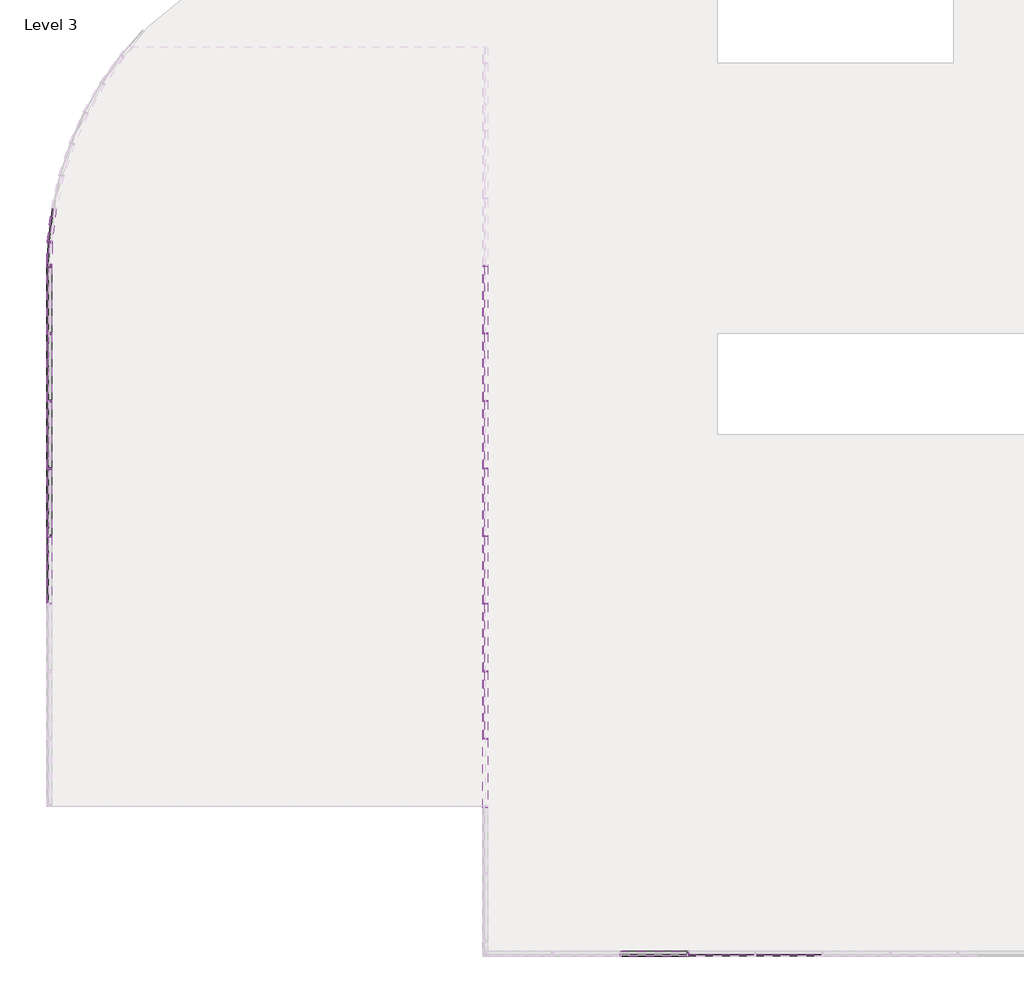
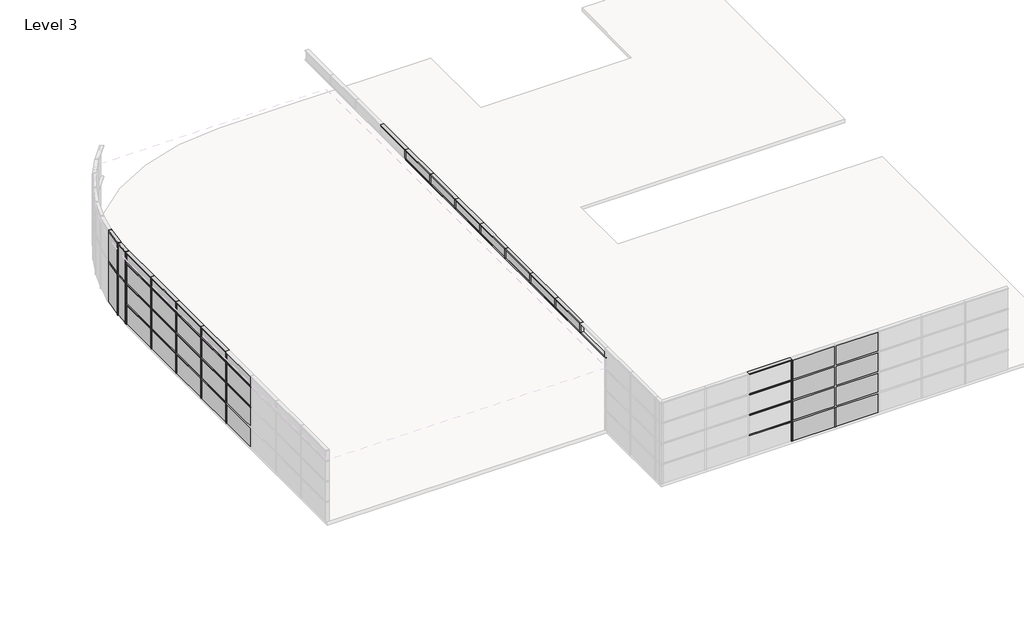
# One storey, part 2 of 6: 79 members, 39 plates.
"""IFC4 building model written with IfcOpenShell, lengths in millimetres."""

from ifc_helpers import new_model, si_unit, origin, place, context, project, spatial, transform, mapped, element, save
from components import rectangular_mullion_50_x_150mm_a053b0ca, rectangular_mullion_50_x_150mm_aa47fe12, rectangular_mullion_50_x_150mm_3a148f0f, rectangular_mullion_50_x_150mm_12a430f9, rectangular_mullion_50_x_150mm_7b680336, rectangular_mullion_50_x_150mm_b9c4b528, rectangular_mullion_50_x_150mm_92e7435e, rectangular_mullion_50_x_150mm_11df4cda, rectangular_mullion_50_x_150mm_a54f4cf2, rectangular_mullion_50_x_150mm_25f32059, rectangular_mullion_50_x_150mm_33fa7e5f, rectangular_mullion_50_x_150mm_4ec38d8a, rectangular_mullion_50_x_150mm_5679a0dd, rectangular_mullion_50_x_150mm_3195318e, system_panel_glazed_751a585c, system_panel_glazed_08de6f5f, system_panel_glazed_10bebfc7, system_panel_glazed_ff23e140, system_panel_glazed_7898dc84, system_panel_glazed_b9387e44, system_panel_glazed_24c71900, system_panel_glazed_efad819a, system_panel_glazed_6d811ace

model = new_model("IFC4")

# Units and contexts
model_context = context("Model", 3, world=origin())
ifc_project = project(units=[si_unit("LENGTHUNIT", "METRE", prefix="MILLI")], contexts=[model_context])

# Site, building, storey
site = spatial("IfcSite", under=ifc_project)
building = spatial("IfcBuilding", under=site)
storey = spatial("IfcBuildingStorey", under=building, Name="Level 3", Elevation=8000.0)

# Members
placement = place(None, origin())
rectangular_mullion_50_x_150mm_shape = rectangular_mullion_50_x_150mm_a053b0ca(model_context)
element("IfcMember", 1, ObjectType="Rectangular Mullion : 50 x 150mm", at=placement, inside=storey, context=model_context, shape_type="MappedRepresentation", body=[
    mapped(rectangular_mullion_50_x_150mm_shape, transform((412.826594, -21988.7417365, 8025.0), x_axis=(1.0, 0.0, 0.0), y_axis=(0.0, -1.0, 0.0), z_axis=(0.0, 0.0, -1.0))),
])
element("IfcMember", 2, ObjectType="Rectangular Mullion : 50 x 150mm", at=placement, inside=storey, context=model_context, shape_type="MappedRepresentation", body=[
    mapped(rectangular_mullion_50_x_150mm_shape, transform((412.826594, -21988.7417365, 9025.0), x_axis=(1.0, 0.0, 0.0), y_axis=(0.0, -1.0, 0.0), z_axis=(0.0, 0.0, -0.9999999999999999))),
])
element("IfcMember", 3, ObjectType="Rectangular Mullion : 50 x 150mm", at=placement, inside=storey, context=model_context, shape_type="MappedRepresentation", body=[
    mapped(rectangular_mullion_50_x_150mm_shape, transform((412.826594, -21988.7417365, 10025.0), x_axis=(1.0, 0.0, 0.0), y_axis=(0.0, -1.0, 0.0), z_axis=(0.0, 0.0, -1.0))),
])
element("IfcMember", 4, ObjectType="Rectangular Mullion : 50 x 150mm", at=placement, inside=storey, context=model_context, shape_type="MappedRepresentation", body=[
    mapped(rectangular_mullion_50_x_150mm_shape, transform((412.826594, -21988.7417365, 11025.0), x_axis=(1.0, 0.0, 0.0), y_axis=(0.0, -1.0, 0.0), z_axis=(0.0, 0.0, -1.0))),
])
element("IfcMember", 5, ObjectType="Rectangular Mullion : 50 x 150mm", at=placement, inside=storey, context=model_context, shape_type="MappedRepresentation", body=[
    mapped(rectangular_mullion_50_x_150mm_shape, transform((2412.826594, -21988.7417365, 8025.0), x_axis=(1.0, 0.0, 0.0), y_axis=(0.0, -1.0, 0.0), z_axis=(0.0, 0.0, -1.0))),
])
element("IfcMember", 6, ObjectType="Rectangular Mullion : 50 x 150mm", at=placement, inside=storey, context=model_context, shape_type="MappedRepresentation", body=[
    mapped(rectangular_mullion_50_x_150mm_shape, transform((-18496.7339025, -7624.0160434, 8025.0), x_axis=(0.0, -1.0, 0.0), y_axis=(-1.0, 0.0, 0.0), z_axis=(0.0, 0.0, -1.0))),
])
element("IfcMember", 7, ObjectType="Rectangular Mullion : 50 x 150mm", at=placement, inside=storey, context=model_context, shape_type="MappedRepresentation", body=[
    mapped(rectangular_mullion_50_x_150mm_shape, transform((-18496.7339025, -7624.0160434, 9025.0), x_axis=(0.0, -1.0, 0.0), y_axis=(-1.0, 0.0, 0.0), z_axis=(0.0, 0.0, -0.9999999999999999))),
])
element("IfcMember", 8, ObjectType="Rectangular Mullion : 50 x 150mm", at=placement, inside=storey, context=model_context, shape_type="MappedRepresentation", body=[
    mapped(rectangular_mullion_50_x_150mm_shape, transform((-18496.7339025, -7624.0160434, 10025.0), x_axis=(0.0, -1.0, 0.0), y_axis=(-1.0, 0.0, 0.0), z_axis=(0.0, 0.0, -1.0))),
])
element("IfcMember", 9, ObjectType="Rectangular Mullion : 50 x 150mm", at=placement, inside=storey, context=model_context, shape_type="MappedRepresentation", body=[
    mapped(rectangular_mullion_50_x_150mm_shape, transform((-18496.7339025, -5624.0160434, 8025.0), x_axis=(0.0, -1.0, 0.0), y_axis=(-1.0, 0.0, 0.0), z_axis=(0.0, 0.0, -1.0))),
])
element("IfcMember", 10, ObjectType="Rectangular Mullion : 50 x 150mm", at=placement, inside=storey, context=model_context, shape_type="MappedRepresentation", body=[
    mapped(rectangular_mullion_50_x_150mm_shape, transform((-18496.7339025, -5624.0160434, 9025.0), x_axis=(0.0, -1.0, 0.0), y_axis=(-1.0, 0.0, 0.0), z_axis=(0.0, 0.0, -0.9999999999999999))),
])
element("IfcMember", 11, ObjectType="Rectangular Mullion : 50 x 150mm", at=placement, inside=storey, context=model_context, shape_type="MappedRepresentation", body=[
    mapped(rectangular_mullion_50_x_150mm_shape, transform((-18496.7339025, -5624.0160434, 10025.0), x_axis=(0.0, -1.0, 0.0), y_axis=(-1.0, 0.0, 0.0), z_axis=(0.0, 0.0, -1.0))),
])
element("IfcMember", 12, ObjectType="Rectangular Mullion : 50 x 150mm", at=placement, inside=storey, context=model_context, shape_type="MappedRepresentation", body=[
    mapped(rectangular_mullion_50_x_150mm_shape, transform((-18496.7339025, -3624.0160434, 8025.0), x_axis=(0.0, -1.0, 0.0), y_axis=(-1.0, 0.0, 0.0), z_axis=(0.0, 0.0, -1.0))),
])
element("IfcMember", 13, ObjectType="Rectangular Mullion : 50 x 150mm", at=placement, inside=storey, context=model_context, shape_type="MappedRepresentation", body=[
    mapped(rectangular_mullion_50_x_150mm_shape, transform((-18496.7339025, -3624.0160434, 9025.0), x_axis=(0.0, -1.0, 0.0), y_axis=(-1.0, 0.0, 0.0), z_axis=(0.0, 0.0, -0.9999999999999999))),
])
element("IfcMember", 14, ObjectType="Rectangular Mullion : 50 x 150mm", at=placement, inside=storey, context=model_context, shape_type="MappedRepresentation", body=[
    mapped(rectangular_mullion_50_x_150mm_shape, transform((-18496.7339025, -3624.0160434, 10025.0), x_axis=(0.0, -1.0, 0.0), y_axis=(-1.0, 0.0, 0.0), z_axis=(0.0, 0.0, -1.0))),
])
element("IfcMember", 15, ObjectType="Rectangular Mullion : 50 x 150mm", at=placement, inside=storey, context=model_context, shape_type="MappedRepresentation", body=[
    mapped(rectangular_mullion_50_x_150mm_shape, transform((-18496.7339025, -9624.0160434, 8025.0), x_axis=(0.0, -1.0, 0.0), y_axis=(-1.0, 0.0, 0.0), z_axis=(0.0, 0.0, -1.0))),
])
element("IfcMember", 16, ObjectType="Rectangular Mullion : 50 x 150mm", at=placement, inside=storey, context=model_context, shape_type="MappedRepresentation", body=[
    mapped(rectangular_mullion_50_x_150mm_shape, transform((-18496.7339025, -9624.0160434, 9025.0), x_axis=(0.0, -1.0, 0.0), y_axis=(-1.0, 0.0, 0.0), z_axis=(0.0, 0.0, -0.9999999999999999))),
])
element("IfcMember", 17, ObjectType="Rectangular Mullion : 50 x 150mm", at=placement, inside=storey, context=model_context, shape_type="MappedRepresentation", body=[
    mapped(rectangular_mullion_50_x_150mm_shape, transform((-18496.7339025, -9624.0160434, 10025.0), x_axis=(0.0, -1.0, 0.0), y_axis=(-1.0, 0.0, 0.0), z_axis=(0.0, 0.0, -1.0))),
])
rectangular_mullion_50_x_150mm_2_shape = rectangular_mullion_50_x_150mm_aa47fe12(model_context)
element("IfcMember", 18, ObjectType="Rectangular Mullion : 50 x 150mm", at=placement, inside=storey, context=model_context, shape_type="MappedRepresentation", body=[
    mapped(rectangular_mullion_50_x_150mm_2_shape, transform((-18496.7339025, -3624.0160434, 11530.2574105), x_axis=(0.0, 0.0, 1.0), y_axis=(-1.0, 0.0, 0.0), z_axis=(0.0, -1.0, 0.0))),
])
element("IfcMember", 19, ObjectType="Rectangular Mullion : 50 x 150mm", at=placement, inside=storey, context=model_context, shape_type="MappedRepresentation", body=[
    mapped(rectangular_mullion_50_x_150mm_2_shape, transform((-18496.7339025, -5624.0160434, 11530.2574105), x_axis=(0.0, 0.0, 1.0), y_axis=(-1.0, 0.0, 0.0), z_axis=(0.0, -1.0, 0.0))),
])
element("IfcMember", 20, ObjectType="Rectangular Mullion : 50 x 150mm", at=placement, inside=storey, context=model_context, shape_type="MappedRepresentation", body=[
    mapped(rectangular_mullion_50_x_150mm_2_shape, transform((-18496.7339025, -7624.0160434, 11530.2574105), x_axis=(0.0, 0.0, 1.0), y_axis=(-1.0, 0.0, 0.0), z_axis=(0.0, -1.0, 0.0))),
])
element("IfcMember", 21, ObjectType="Rectangular Mullion : 50 x 150mm", at=placement, inside=storey, context=model_context, shape_type="MappedRepresentation", body=[
    mapped(rectangular_mullion_50_x_150mm_2_shape, transform((-18496.7339025, -9624.0160434, 11530.2574105), x_axis=(0.0, 0.0, 1.0), y_axis=(-1.0, 0.0, 0.0), z_axis=(0.0, -1.0, 0.0))),
])
element("IfcMember", 22, ObjectType="Rectangular Mullion : 50 x 150mm", at=placement, inside=storey, context=model_context, shape_type="MappedRepresentation", body=[
    mapped(rectangular_mullion_50_x_150mm_2_shape, transform((-18496.7339025, -1624.0160434, 8000.0), x_axis=(-0.03507811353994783, -0.9993845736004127, 0.0), y_axis=(-0.9993845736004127, 0.03507811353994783, 0.0), z_axis=(0.0, 0.0, -1.0))),
])
element("IfcMember", 23, ObjectType="Rectangular Mullion : 50 x 150mm", at=placement, inside=storey, context=model_context, shape_type="MappedRepresentation", body=[
    mapped(rectangular_mullion_50_x_150mm_2_shape, transform((-5587.173406, -1624.0160434, 11530.2574105), x_axis=(0.0, 0.0, -1.0), y_axis=(-1.0, 0.0, 0.0), z_axis=(0.0, 1.0, 0.0))),
])
element("IfcMember", 24, ObjectType="Rectangular Mullion : 50 x 150mm", at=placement, inside=storey, context=model_context, shape_type="MappedRepresentation", body=[
    mapped(rectangular_mullion_50_x_150mm_2_shape, transform((-5587.173406, -3624.0160434, 11530.2574105), x_axis=(0.0, 0.0, -1.0), y_axis=(-1.0, 0.0, 0.0), z_axis=(0.0, 1.0, 0.0))),
])
element("IfcMember", 25, ObjectType="Rectangular Mullion : 50 x 150mm", at=placement, inside=storey, context=model_context, shape_type="MappedRepresentation", body=[
    mapped(rectangular_mullion_50_x_150mm_2_shape, transform((-5587.173406, -5624.0160434, 11530.2574105), x_axis=(0.0, 0.0, -1.0), y_axis=(-1.0, 0.0, 0.0), z_axis=(0.0, 1.0, 0.0))),
])
element("IfcMember", 26, ObjectType="Rectangular Mullion : 50 x 150mm", at=placement, inside=storey, context=model_context, shape_type="MappedRepresentation", body=[
    mapped(rectangular_mullion_50_x_150mm_2_shape, transform((-5587.173406, -7624.0160434, 11530.2574105), x_axis=(0.0, 0.0, -1.0), y_axis=(-1.0, 0.0, 0.0), z_axis=(0.0, 1.0, 0.0))),
])
element("IfcMember", 27, ObjectType="Rectangular Mullion : 50 x 150mm", at=placement, inside=storey, context=model_context, shape_type="MappedRepresentation", body=[
    mapped(rectangular_mullion_50_x_150mm_2_shape, transform((-5587.173406, -9624.0160434, 11530.2574105), x_axis=(0.0, 0.0, -1.0), y_axis=(-1.0, 0.0, 0.0), z_axis=(0.0, 1.0, 0.0))),
])
element("IfcMember", 28, ObjectType="Rectangular Mullion : 50 x 150mm", at=placement, inside=storey, context=model_context, shape_type="MappedRepresentation", body=[
    mapped(rectangular_mullion_50_x_150mm_2_shape, transform((-5587.173406, -11624.0160434, 11530.2574105), x_axis=(0.0, 0.0, -1.0), y_axis=(-1.0, 0.0, 0.0), z_axis=(0.0, 1.0, 0.0))),
])
element("IfcMember", 29, ObjectType="Rectangular Mullion : 50 x 150mm", at=placement, inside=storey, context=model_context, shape_type="MappedRepresentation", body=[
    mapped(rectangular_mullion_50_x_150mm_2_shape, transform((-5587.173406, -13624.0160434, 11530.2574105), x_axis=(0.0, 0.0, -1.0), y_axis=(-1.0, 0.0, 0.0), z_axis=(0.0, 1.0, 0.0))),
])
rectangular_mullion_50_x_150mm_3_shape = rectangular_mullion_50_x_150mm_3a148f0f(model_context)
element("IfcMember", 30, ObjectType="Rectangular Mullion : 50 x 150mm", at=placement, inside=storey, context=model_context, shape_type="MappedRepresentation", body=[
    mapped(rectangular_mullion_50_x_150mm_3_shape, transform((-18496.7339025, -3624.0160434, 9000.0), x_axis=(0.0, 0.0, 1.0), y_axis=(-1.0, 0.0, 0.0), z_axis=(0.0, -1.0, 0.0))),
])
element("IfcMember", 31, ObjectType="Rectangular Mullion : 50 x 150mm", at=placement, inside=storey, context=model_context, shape_type="MappedRepresentation", body=[
    mapped(rectangular_mullion_50_x_150mm_3_shape, transform((-18496.7339025, -3624.0160434, 10000.0), x_axis=(0.0, 0.0, 1.0), y_axis=(-1.0, 0.0, 0.0), z_axis=(0.0, -1.0, 0.0))),
])
element("IfcMember", 32, ObjectType="Rectangular Mullion : 50 x 150mm", at=placement, inside=storey, context=model_context, shape_type="MappedRepresentation", body=[
    mapped(rectangular_mullion_50_x_150mm_3_shape, transform((-18496.7339025, -3624.0160434, 11000.0), x_axis=(0.0, 0.0, 1.0), y_axis=(-1.0, 0.0, 0.0), z_axis=(0.0, -1.0, 0.0))),
])
element("IfcMember", 33, ObjectType="Rectangular Mullion : 50 x 150mm", at=placement, inside=storey, context=model_context, shape_type="MappedRepresentation", body=[
    mapped(rectangular_mullion_50_x_150mm_3_shape, transform((412.826594, -21988.7417365, 9000.0), x_axis=(0.0, 0.0, 1.0), y_axis=(0.0, -1.0, 0.0), z_axis=(1.0, 0.0, 0.0))),
])
element("IfcMember", 34, ObjectType="Rectangular Mullion : 50 x 150mm", at=placement, inside=storey, context=model_context, shape_type="MappedRepresentation", body=[
    mapped(rectangular_mullion_50_x_150mm_3_shape, transform((412.826594, -21988.7417365, 10000.0), x_axis=(0.0, 0.0, 1.0), y_axis=(0.0, -1.0, 0.0), z_axis=(1.0, 0.0, 0.0))),
])
element("IfcMember", 35, ObjectType="Rectangular Mullion : 50 x 150mm", at=placement, inside=storey, context=model_context, shape_type="MappedRepresentation", body=[
    mapped(rectangular_mullion_50_x_150mm_3_shape, transform((412.826594, -21988.7417365, 11000.0), x_axis=(0.0, 0.0, 1.0), y_axis=(0.0, -1.0, 0.0), z_axis=(1.0, 0.0, 0.0))),
])
element("IfcMember", 36, ObjectType="Rectangular Mullion : 50 x 150mm", at=placement, inside=storey, context=model_context, shape_type="MappedRepresentation", body=[
    mapped(rectangular_mullion_50_x_150mm_3_shape, transform((412.826594, -21988.7417365, 12000.0), x_axis=(0.0, 0.0, 1.0), y_axis=(0.0, -1.0, 0.0), z_axis=(1.0, 0.0, 0.0))),
])
element("IfcMember", 37, ObjectType="Rectangular Mullion : 50 x 150mm", at=placement, inside=storey, context=model_context, shape_type="MappedRepresentation", body=[
    mapped(rectangular_mullion_50_x_150mm_3_shape, transform((-5587.173406, -1624.0160434, 12000.0), x_axis=(0.0, 0.0, 1.0), y_axis=(-1.0, 0.0, 0.0), z_axis=(0.0, -1.0, 0.0))),
])
element("IfcMember", 38, ObjectType="Rectangular Mullion : 50 x 150mm", at=placement, inside=storey, context=model_context, shape_type="MappedRepresentation", body=[
    mapped(rectangular_mullion_50_x_150mm_3_shape, transform((-5587.173406, -3624.0160434, 12000.0), x_axis=(0.0, 0.0, 1.0), y_axis=(-1.0, 0.0, 0.0), z_axis=(0.0, -1.0, 0.0))),
])
element("IfcMember", 39, ObjectType="Rectangular Mullion : 50 x 150mm", at=placement, inside=storey, context=model_context, shape_type="MappedRepresentation", body=[
    mapped(rectangular_mullion_50_x_150mm_3_shape, transform((-5587.173406, -5624.0160434, 12000.0), x_axis=(0.0, 0.0, 1.0), y_axis=(-1.0, 0.0, 0.0), z_axis=(0.0, -1.0, 0.0))),
])
element("IfcMember", 40, ObjectType="Rectangular Mullion : 50 x 150mm", at=placement, inside=storey, context=model_context, shape_type="MappedRepresentation", body=[
    mapped(rectangular_mullion_50_x_150mm_3_shape, transform((-5587.173406, -7624.0160434, 12000.0), x_axis=(0.0, 0.0, 1.0), y_axis=(-1.0, 0.0, 0.0), z_axis=(0.0, -1.0, 0.0))),
])
element("IfcMember", 41, ObjectType="Rectangular Mullion : 50 x 150mm", at=placement, inside=storey, context=model_context, shape_type="MappedRepresentation", body=[
    mapped(rectangular_mullion_50_x_150mm_3_shape, transform((-5587.173406, -9624.0160434, 12000.0), x_axis=(0.0, 0.0, 1.0), y_axis=(-1.0, 0.0, 0.0), z_axis=(0.0, -1.0, 0.0))),
])
element("IfcMember", 42, ObjectType="Rectangular Mullion : 50 x 150mm", at=placement, inside=storey, context=model_context, shape_type="MappedRepresentation", body=[
    mapped(rectangular_mullion_50_x_150mm_3_shape, transform((-5587.173406, -11624.0160434, 12000.0), x_axis=(0.0, 0.0, 1.0), y_axis=(-1.0, 0.0, 0.0), z_axis=(0.0, -1.0, 0.0))),
])
element("IfcMember", 43, ObjectType="Rectangular Mullion : 50 x 150mm", at=placement, inside=storey, context=model_context, shape_type="MappedRepresentation", body=[
    mapped(rectangular_mullion_50_x_150mm_3_shape, transform((-5587.173406, -13624.0160434, 12000.0), x_axis=(0.0, 0.0, 1.0), y_axis=(-1.0, 0.0, 0.0), z_axis=(0.0, -1.0, 0.0))),
])
element("IfcMember", 44, ObjectType="Rectangular Mullion : 50 x 150mm", at=placement, inside=storey, context=model_context, shape_type="MappedRepresentation", body=[
    mapped(rectangular_mullion_50_x_150mm_3_shape, transform((-5587.173406, -15624.0160434, 12000.0), x_axis=(0.0, 0.0, 1.0), y_axis=(-1.0, 0.0, 0.0), z_axis=(0.0, -1.0, 0.0))),
])
element("IfcMember", 45, ObjectType="Rectangular Mullion : 50 x 150mm", at=placement, inside=storey, context=model_context, shape_type="MappedRepresentation", body=[
    mapped(rectangular_mullion_50_x_150mm_3_shape, transform((-18496.7339025, -5624.0160434, 9000.0), x_axis=(0.0, 0.0, 1.0), y_axis=(-1.0, 0.0, 0.0), z_axis=(0.0, -1.0, 0.0))),
])
element("IfcMember", 46, ObjectType="Rectangular Mullion : 50 x 150mm", at=placement, inside=storey, context=model_context, shape_type="MappedRepresentation", body=[
    mapped(rectangular_mullion_50_x_150mm_3_shape, transform((-18496.7339025, -7624.0160434, 9000.0), x_axis=(0.0, 0.0, 1.0), y_axis=(-1.0, 0.0, 0.0), z_axis=(0.0, -1.0, 0.0))),
])
element("IfcMember", 47, ObjectType="Rectangular Mullion : 50 x 150mm", at=placement, inside=storey, context=model_context, shape_type="MappedRepresentation", body=[
    mapped(rectangular_mullion_50_x_150mm_3_shape, transform((-18496.7339025, -9624.0160434, 9000.0), x_axis=(0.0, 0.0, 1.0), y_axis=(-1.0, 0.0, 0.0), z_axis=(0.0, -1.0, 0.0))),
])
element("IfcMember", 48, ObjectType="Rectangular Mullion : 50 x 150mm", at=placement, inside=storey, context=model_context, shape_type="MappedRepresentation", body=[
    mapped(rectangular_mullion_50_x_150mm_3_shape, transform((-18496.7339025, -5624.0160434, 10000.0), x_axis=(0.0, 0.0, 1.0), y_axis=(-1.0, 0.0, 0.0), z_axis=(0.0, -1.0, 0.0))),
])
element("IfcMember", 49, ObjectType="Rectangular Mullion : 50 x 150mm", at=placement, inside=storey, context=model_context, shape_type="MappedRepresentation", body=[
    mapped(rectangular_mullion_50_x_150mm_3_shape, transform((-18496.7339025, -7624.0160434, 10000.0), x_axis=(0.0, 0.0, 1.0), y_axis=(-1.0, 0.0, 0.0), z_axis=(0.0, -1.0, 0.0))),
])
element("IfcMember", 50, ObjectType="Rectangular Mullion : 50 x 150mm", at=placement, inside=storey, context=model_context, shape_type="MappedRepresentation", body=[
    mapped(rectangular_mullion_50_x_150mm_3_shape, transform((-18496.7339025, -9624.0160434, 10000.0), x_axis=(0.0, 0.0, 1.0), y_axis=(-1.0, 0.0, 0.0), z_axis=(0.0, -1.0, 0.0))),
])
element("IfcMember", 51, ObjectType="Rectangular Mullion : 50 x 150mm", at=placement, inside=storey, context=model_context, shape_type="MappedRepresentation", body=[
    mapped(rectangular_mullion_50_x_150mm_3_shape, transform((-18496.7339025, -11624.0160434, 10000.0), x_axis=(0.0, 0.0, 1.0), y_axis=(-1.0, 0.0, 0.0), z_axis=(0.0, -1.0, 0.0))),
])
element("IfcMember", 52, ObjectType="Rectangular Mullion : 50 x 150mm", at=placement, inside=storey, context=model_context, shape_type="MappedRepresentation", body=[
    mapped(rectangular_mullion_50_x_150mm_3_shape, transform((-18496.7339025, -5624.0160434, 11000.0), x_axis=(0.0, 0.0, 1.0), y_axis=(-1.0, 0.0, 0.0), z_axis=(0.0, -1.0, 0.0))),
])
element("IfcMember", 53, ObjectType="Rectangular Mullion : 50 x 150mm", at=placement, inside=storey, context=model_context, shape_type="MappedRepresentation", body=[
    mapped(rectangular_mullion_50_x_150mm_3_shape, transform((-18496.7339025, -7624.0160434, 11000.0), x_axis=(0.0, 0.0, 1.0), y_axis=(-1.0, 0.0, 0.0), z_axis=(0.0, -1.0, 0.0))),
])
element("IfcMember", 54, ObjectType="Rectangular Mullion : 50 x 150mm", at=placement, inside=storey, context=model_context, shape_type="MappedRepresentation", body=[
    mapped(rectangular_mullion_50_x_150mm_3_shape, transform((-18496.7339025, -9624.0160434, 11000.0), x_axis=(0.0, 0.0, 1.0), y_axis=(-1.0, 0.0, 0.0), z_axis=(0.0, -1.0, 0.0))),
])
element("IfcMember", 55, ObjectType="Rectangular Mullion : 50 x 150mm", at=placement, inside=storey, context=model_context, shape_type="MappedRepresentation", body=[
    mapped(rectangular_mullion_50_x_150mm_3_shape, transform((-18496.7339025, -11624.0160434, 11000.0), x_axis=(0.0, 0.0, 1.0), y_axis=(-1.0, 0.0, 0.0), z_axis=(0.0, -1.0, 0.0))),
])
element("IfcMember", 56, ObjectType="Rectangular Mullion : 50 x 150mm", at=placement, inside=storey, context=model_context, shape_type="MappedRepresentation", body=[
    mapped(rectangular_mullion_50_x_150mm_3_shape, transform((-18472.1244215, -922.8855326, 8000.0), x_axis=(-0.07011305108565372, -0.9975390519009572, 0.0), y_axis=(-0.9975390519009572, 0.07011305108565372, 0.0), z_axis=(0.0, 0.0, -1.0))),
])
rectangular_mullion_50_x_150mm_4_shape = rectangular_mullion_50_x_150mm_12a430f9(model_context)
element("IfcMember", 57, ObjectType="Rectangular Mullion : 50 x 150mm", at=placement, inside=storey, context=model_context, shape_type="MappedRepresentation", body=[
    mapped(rectangular_mullion_50_x_150mm_4_shape, transform((-18496.7339025, -1624.0160434, 8975.0), x_axis=(0.0, 1.0, 0.0), y_axis=(-1.0, 0.0, 0.0), z_axis=(0.0, 0.0, 1.0))),
])
element("IfcMember", 58, ObjectType="Rectangular Mullion : 50 x 150mm", at=placement, inside=storey, context=model_context, shape_type="MappedRepresentation", body=[
    mapped(rectangular_mullion_50_x_150mm_4_shape, transform((-18496.7339025, -1624.0160434, 9975.0), x_axis=(0.0, 1.0, 0.0), y_axis=(-1.0, 0.0, 0.0), z_axis=(0.0, 0.0, 0.9999999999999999))),
])
element("IfcMember", 59, ObjectType="Rectangular Mullion : 50 x 150mm", at=placement, inside=storey, context=model_context, shape_type="MappedRepresentation", body=[
    mapped(rectangular_mullion_50_x_150mm_4_shape, transform((-18496.7339025, -1624.0160434, 10975.0), x_axis=(0.0, 1.0, 0.0), y_axis=(-1.0, 0.0, 0.0), z_axis=(0.0, 0.0, 1.0))),
])
rectangular_mullion_50_x_150mm_5_shape = rectangular_mullion_50_x_150mm_7b680336(model_context)
element("IfcMember", 60, ObjectType="Rectangular Mullion : 50 x 150mm", at=placement, inside=storey, context=model_context, shape_type="MappedRepresentation", body=[
    mapped(rectangular_mullion_50_x_150mm_5_shape, transform((-5587.173406, -3624.0160434, 11580.2574105), x_axis=(0.0, -1.0, 0.0), y_axis=(-1.0, 0.0, 0.0), z_axis=(0.0, 0.0, -0.9999999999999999))),
])
element("IfcMember", 61, ObjectType="Rectangular Mullion : 50 x 150mm", at=placement, inside=storey, context=model_context, shape_type="MappedRepresentation", body=[
    mapped(rectangular_mullion_50_x_150mm_5_shape, transform((-5587.173406, -5624.0160434, 11580.2574105), x_axis=(0.0, -1.0, 0.0), y_axis=(-1.0, 0.0, 0.0), z_axis=(0.0, 0.0, -1.0))),
])
element("IfcMember", 62, ObjectType="Rectangular Mullion : 50 x 150mm", at=placement, inside=storey, context=model_context, shape_type="MappedRepresentation", body=[
    mapped(rectangular_mullion_50_x_150mm_5_shape, transform((-5587.173406, -7624.0160434, 11580.2574105), x_axis=(0.0, -1.0, 0.0), y_axis=(-1.0, 0.0, 0.0), z_axis=(0.0, 0.0, -0.9999999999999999))),
])
element("IfcMember", 63, ObjectType="Rectangular Mullion : 50 x 150mm", at=placement, inside=storey, context=model_context, shape_type="MappedRepresentation", body=[
    mapped(rectangular_mullion_50_x_150mm_5_shape, transform((-5587.173406, -1624.0160434, 11580.2574105), x_axis=(0.0, -1.0, 0.0), y_axis=(-1.0, 0.0, 0.0), z_axis=(0.0, 0.0, -1.0))),
])
element("IfcMember", 64, ObjectType="Rectangular Mullion : 50 x 150mm", at=placement, inside=storey, context=model_context, shape_type="MappedRepresentation", body=[
    mapped(rectangular_mullion_50_x_150mm_5_shape, transform((-5587.173406, -9624.0160434, 11580.2574105), x_axis=(0.0, -1.0, 0.0), y_axis=(-1.0, 0.0, 0.0), z_axis=(0.0, 0.0, -0.9999999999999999))),
])
element("IfcMember", 65, ObjectType="Rectangular Mullion : 50 x 150mm", at=placement, inside=storey, context=model_context, shape_type="MappedRepresentation", body=[
    mapped(rectangular_mullion_50_x_150mm_5_shape, transform((-5587.173406, -11624.0160434, 11580.2574105), x_axis=(0.0, -1.0, 0.0), y_axis=(-1.0, 0.0, 0.0), z_axis=(0.0, 0.0, -0.9999999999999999))),
])
element("IfcMember", 66, ObjectType="Rectangular Mullion : 50 x 150mm", at=placement, inside=storey, context=model_context, shape_type="MappedRepresentation", body=[
    mapped(rectangular_mullion_50_x_150mm_5_shape, transform((-5587.173406, -13624.0160434, 11580.2574105), x_axis=(0.0, -1.0, 0.0), y_axis=(-1.0, 0.0, 0.0), z_axis=(0.0, 0.0, -0.9999999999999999))),
])
element("IfcMember", 67, ObjectType="Rectangular Mullion : 50 x 150mm", at=placement, inside=storey, context=model_context, shape_type="MappedRepresentation", body=[
    mapped(rectangular_mullion_50_x_150mm_5_shape, transform((-5587.173406, -15624.0160434, 11580.2574105), x_axis=(0.0, -1.0, 0.0), y_axis=(-1.0, 0.0, 0.0), z_axis=(0.0, 0.0, -0.9999999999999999))),
])
rectangular_mullion_50_x_150mm_6_shape = rectangular_mullion_50_x_150mm_b9c4b528(model_context)
element("IfcMember", 68, ObjectType="Rectangular Mullion : 50 x 150mm", at=placement, inside=storey, context=model_context, shape_type="MappedRepresentation", body=[
    mapped(rectangular_mullion_50_x_150mm_6_shape, transform((-5587.173406, -15624.0160434, 11530.2574105), x_axis=(0.0, 0.0, -1.0), y_axis=(-1.0, 0.0, 0.0), z_axis=(0.0, 1.0, 0.0))),
])
rectangular_mullion_50_x_150mm_7_shape = rectangular_mullion_50_x_150mm_92e7435e(model_context)
element("IfcMember", 69, ObjectType="Rectangular Mullion : 50 x 150mm", at=placement, inside=storey, context=model_context, shape_type="MappedRepresentation", body=[
    mapped(rectangular_mullion_50_x_150mm_7_shape, transform((-18496.7339025, -7624.0160434, 11025.0), x_axis=(0.0, -1.0, 0.0), y_axis=(-1.0, 0.0, 0.0), z_axis=(0.0, 0.0, -1.0))),
])
element("IfcMember", 70, ObjectType="Rectangular Mullion : 50 x 150mm", at=placement, inside=storey, context=model_context, shape_type="MappedRepresentation", body=[
    mapped(rectangular_mullion_50_x_150mm_7_shape, transform((-18496.7339025, -5624.0160434, 11025.0), x_axis=(0.0, -1.0, 0.0), y_axis=(-1.0, 0.0, 0.0), z_axis=(0.0, 0.0, -1.0))),
])
element("IfcMember", 71, ObjectType="Rectangular Mullion : 50 x 150mm", at=placement, inside=storey, context=model_context, shape_type="MappedRepresentation", body=[
    mapped(rectangular_mullion_50_x_150mm_7_shape, transform((-18496.7339025, -3624.0160434, 11025.0), x_axis=(0.0, -1.0, 0.0), y_axis=(-1.0, 0.0, 0.0), z_axis=(0.0, 0.0, -1.0))),
])
element("IfcMember", 72, ObjectType="Rectangular Mullion : 50 x 150mm", at=placement, inside=storey, context=model_context, shape_type="MappedRepresentation", body=[
    mapped(rectangular_mullion_50_x_150mm_7_shape, transform((-18496.7339025, -9624.0160434, 11025.0), x_axis=(0.0, -1.0, 0.0), y_axis=(-1.0, 0.0, 0.0), z_axis=(0.0, 0.0, -1.0))),
])
rectangular_mullion_50_x_150mm_8_shape = rectangular_mullion_50_x_150mm_11df4cda(model_context)
element("IfcMember", 73, ObjectType="Rectangular Mullion : 50 x 150mm", at=placement, inside=storey, context=model_context, shape_type="MappedRepresentation", body=[
    mapped(rectangular_mullion_50_x_150mm_8_shape, transform((-18496.7339025, -1624.0160434, 11480.2574105), x_axis=(0.0, 1.0, 0.0), y_axis=(-1.0, 0.0, 0.0), z_axis=(0.0, 0.0, 1.0))),
])
rectangular_mullion_50_x_150mm_9_shape = rectangular_mullion_50_x_150mm_a54f4cf2(model_context)
element("IfcMember", 74, ObjectType="Rectangular Mullion : 50 x 150mm", at=placement, inside=storey, context=model_context, shape_type="MappedRepresentation", body=[
    mapped(rectangular_mullion_50_x_150mm_9_shape, transform((-18469.1268638, -898.0658902, 11530.2574105), x_axis=(0.0, 0.0, 1.0), y_axis=(-0.9927856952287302, 0.11990230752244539, 0.0), z_axis=(-0.11990230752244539, -0.9927856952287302, 0.0))),
])
rectangular_mullion_50_x_150mm_10_shape = rectangular_mullion_50_x_150mm_25f32059(model_context)
element("IfcMember", 75, ObjectType="Rectangular Mullion : 50 x 150mm", at=placement, inside=storey, context=model_context, shape_type="MappedRepresentation", body=[
    mapped(rectangular_mullion_50_x_150mm_10_shape, transform((-18469.1268638, -898.0658902, 10000.0), x_axis=(0.0, 0.0, 0.9999999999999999), y_axis=(-0.9927856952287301, 0.1199023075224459, 0.0), z_axis=(-0.11990230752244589, -0.99278569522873, 0.0))),
])
rectangular_mullion_50_x_150mm_11_shape = rectangular_mullion_50_x_150mm_33fa7e5f(model_context)
element("IfcMember", 76, ObjectType="Rectangular Mullion : 50 x 150mm", at=placement, inside=storey, context=model_context, shape_type="MappedRepresentation", body=[
    mapped(rectangular_mullion_50_x_150mm_11_shape, transform((-18494.9799968, -1574.0468148, 10000.0), x_axis=(0.0, 0.0, 1.0), y_axis=(-0.9993845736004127, 0.03507811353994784, 0.0), z_axis=(-0.03507811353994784, -0.9993845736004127, 0.0))),
])
rectangular_mullion_50_x_150mm_12_shape = rectangular_mullion_50_x_150mm_4ec38d8a(model_context)
element("IfcMember", 77, ObjectType="Rectangular Mullion : 50 x 150mm", at=placement, inside=storey, context=model_context, shape_type="MappedRepresentation", body=[
    mapped(rectangular_mullion_50_x_150mm_12_shape, transform((-18472.1244215, -922.8855326, 10000.0), x_axis=(-0.07011305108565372, -0.9975390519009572, 0.0), y_axis=(-0.9975390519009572, 0.07011305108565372, 0.0), z_axis=(0.0, 0.0, -1.0))),
])
rectangular_mullion_50_x_150mm_13_shape = rectangular_mullion_50_x_150mm_5679a0dd(model_context)
element("IfcMember", 78, ObjectType="Rectangular Mullion : 50 x 150mm", at=placement, inside=storey, context=model_context, shape_type="MappedRepresentation", body=[
    mapped(rectangular_mullion_50_x_150mm_13_shape, transform((-18494.9799968, -1574.0468148, 11530.2574105), x_axis=(0.0, 0.0, 1.0), y_axis=(-0.9993845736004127, 0.03507811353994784, 0.0), z_axis=(-0.03507811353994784, -0.9993845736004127, 0.0))),
])
rectangular_mullion_50_x_150mm_14_shape = rectangular_mullion_50_x_150mm_3195318e(model_context)
element("IfcMember", 79, ObjectType="Rectangular Mullion : 50 x 150mm", at=placement, inside=storey, context=model_context, shape_type="MappedRepresentation", body=[
    mapped(rectangular_mullion_50_x_150mm_14_shape, transform((-18496.7339025, -1624.0160434, 10000.0), x_axis=(-0.03507811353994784, -0.9993845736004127, 0.0), y_axis=(-0.9993845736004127, 0.03507811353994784, 0.0), z_axis=(0.0, 0.0, -1.0))),
])

# Plates
system_panel_glazed_shape = system_panel_glazed_751a585c(model_context)
element("IfcPlate", 80, ObjectType="System Panel : Glazed", at=placement, inside=storey, context=model_context, shape_type="MappedRepresentation", body=[
    mapped(system_panel_glazed_shape, transform((-18496.7339025, -1674.0160434, 8500.0), x_axis=(0.0, 0.0, 1.0), y_axis=(-1.0, 0.0, 0.0), z_axis=(0.0, -1.0, 0.0))),
])
element("IfcPlate", 81, ObjectType="System Panel : Glazed", at=placement, inside=storey, context=model_context, shape_type="MappedRepresentation", body=[
    mapped(system_panel_glazed_shape, transform((-18496.7339025, -1674.0160434, 9500.0), x_axis=(0.0, 0.0, 1.0), y_axis=(-1.0, 0.0, 0.0), z_axis=(0.0, -1.0, 0.0))),
])
element("IfcPlate", 82, ObjectType="System Panel : Glazed", at=placement, inside=storey, context=model_context, shape_type="MappedRepresentation", body=[
    mapped(system_panel_glazed_shape, transform((-18496.7339025, -1674.0160434, 10500.0), x_axis=(0.0, 0.0, 1.0), y_axis=(-1.0, 0.0, 0.0), z_axis=(0.0, -1.0, 0.0))),
])
system_panel_glazed_2_shape = system_panel_glazed_08de6f5f(model_context)
element("IfcPlate", 83, ObjectType="System Panel : Glazed", at=placement, inside=storey, context=model_context, shape_type="MappedRepresentation", body=[
    mapped(system_panel_glazed_2_shape, transform((437.826594, -21988.7417365, 8500.0), x_axis=(0.0, 0.0, 1.0), y_axis=(0.0, -1.0, 0.0), z_axis=(1.0, 0.0, 0.0))),
])
element("IfcPlate", 84, ObjectType="System Panel : Glazed", at=placement, inside=storey, context=model_context, shape_type="MappedRepresentation", body=[
    mapped(system_panel_glazed_2_shape, transform((437.826594, -21988.7417365, 9500.0), x_axis=(0.0, 0.0, 1.0), y_axis=(0.0, -1.0, 0.0), z_axis=(1.0, 0.0, 0.0))),
])
element("IfcPlate", 85, ObjectType="System Panel : Glazed", at=placement, inside=storey, context=model_context, shape_type="MappedRepresentation", body=[
    mapped(system_panel_glazed_2_shape, transform((2437.826594, -21988.7417365, 8500.0), x_axis=(0.0, 0.0, 1.0), y_axis=(0.0, -1.0, 0.0), z_axis=(1.0, 0.0, 0.0))),
])
element("IfcPlate", 86, ObjectType="System Panel : Glazed", at=placement, inside=storey, context=model_context, shape_type="MappedRepresentation", body=[
    mapped(system_panel_glazed_2_shape, transform((2437.826594, -21988.7417365, 9500.0), x_axis=(0.0, 0.0, 1.0), y_axis=(0.0, -1.0, 0.0), z_axis=(1.0, 0.0, 0.0))),
])
element("IfcPlate", 87, ObjectType="System Panel : Glazed", at=placement, inside=storey, context=model_context, shape_type="MappedRepresentation", body=[
    mapped(system_panel_glazed_2_shape, transform((-18496.7339025, -3649.0160434, 8500.0), x_axis=(0.0, 0.0, 1.0), y_axis=(-1.0, 0.0, 0.0), z_axis=(0.0, -1.0, 0.0))),
])
element("IfcPlate", 88, ObjectType="System Panel : Glazed", at=placement, inside=storey, context=model_context, shape_type="MappedRepresentation", body=[
    mapped(system_panel_glazed_2_shape, transform((-18496.7339025, -5649.0160434, 8500.0), x_axis=(0.0, 0.0, 1.0), y_axis=(-1.0, 0.0, 0.0), z_axis=(0.0, -1.0, 0.0))),
])
element("IfcPlate", 89, ObjectType="System Panel : Glazed", at=placement, inside=storey, context=model_context, shape_type="MappedRepresentation", body=[
    mapped(system_panel_glazed_2_shape, transform((-18496.7339025, -7649.0160434, 8500.0), x_axis=(0.0, 0.0, 1.0), y_axis=(-1.0, 0.0, 0.0), z_axis=(0.0, -1.0, 0.0))),
])
element("IfcPlate", 90, ObjectType="System Panel : Glazed", at=placement, inside=storey, context=model_context, shape_type="MappedRepresentation", body=[
    mapped(system_panel_glazed_2_shape, transform((-18496.7339025, -9649.0160434, 8500.0), x_axis=(0.0, 0.0, 1.0), y_axis=(-1.0, 0.0, 0.0), z_axis=(0.0, -1.0, 0.0))),
])
element("IfcPlate", 91, ObjectType="System Panel : Glazed", at=placement, inside=storey, context=model_context, shape_type="MappedRepresentation", body=[
    mapped(system_panel_glazed_2_shape, transform((437.826594, -21988.7417365, 10500.0), x_axis=(0.0, 0.0, 1.0), y_axis=(0.0, -1.0, 0.0), z_axis=(1.0, 0.0, 0.0))),
])
element("IfcPlate", 92, ObjectType="System Panel : Glazed", at=placement, inside=storey, context=model_context, shape_type="MappedRepresentation", body=[
    mapped(system_panel_glazed_2_shape, transform((2437.826594, -21988.7417365, 10500.0), x_axis=(0.0, 0.0, 1.0), y_axis=(0.0, -1.0, 0.0), z_axis=(1.0, 0.0, 0.0))),
])
element("IfcPlate", 93, ObjectType="System Panel : Glazed", at=placement, inside=storey, context=model_context, shape_type="MappedRepresentation", body=[
    mapped(system_panel_glazed_2_shape, transform((437.826594, -21988.7417365, 11500.0), x_axis=(0.0, 0.0, 1.0), y_axis=(0.0, -1.0, 0.0), z_axis=(1.0, 0.0, 0.0))),
])
element("IfcPlate", 94, ObjectType="System Panel : Glazed", at=placement, inside=storey, context=model_context, shape_type="MappedRepresentation", body=[
    mapped(system_panel_glazed_2_shape, transform((2437.826594, -21988.7417365, 11500.0), x_axis=(0.0, 0.0, 1.0), y_axis=(0.0, -1.0, 0.0), z_axis=(1.0, 0.0, 0.0))),
])
element("IfcPlate", 95, ObjectType="System Panel : Glazed", at=placement, inside=storey, context=model_context, shape_type="MappedRepresentation", body=[
    mapped(system_panel_glazed_2_shape, transform((-18496.7339025, -3649.0160434, 9500.0), x_axis=(0.0, 0.0, 1.0), y_axis=(-1.0, 0.0, 0.0), z_axis=(0.0, -1.0, 0.0))),
])
element("IfcPlate", 96, ObjectType="System Panel : Glazed", at=placement, inside=storey, context=model_context, shape_type="MappedRepresentation", body=[
    mapped(system_panel_glazed_2_shape, transform((-18496.7339025, -5649.0160434, 9500.0), x_axis=(0.0, 0.0, 1.0), y_axis=(-1.0, 0.0, 0.0), z_axis=(0.0, -1.0, 0.0))),
])
element("IfcPlate", 97, ObjectType="System Panel : Glazed", at=placement, inside=storey, context=model_context, shape_type="MappedRepresentation", body=[
    mapped(system_panel_glazed_2_shape, transform((-18496.7339025, -7649.0160434, 9500.0), x_axis=(0.0, 0.0, 1.0), y_axis=(-1.0, 0.0, 0.0), z_axis=(0.0, -1.0, 0.0))),
])
element("IfcPlate", 98, ObjectType="System Panel : Glazed", at=placement, inside=storey, context=model_context, shape_type="MappedRepresentation", body=[
    mapped(system_panel_glazed_2_shape, transform((-18496.7339025, -9649.0160434, 9500.0), x_axis=(0.0, 0.0, 1.0), y_axis=(-1.0, 0.0, 0.0), z_axis=(0.0, -1.0, 0.0))),
])
element("IfcPlate", 99, ObjectType="System Panel : Glazed", at=placement, inside=storey, context=model_context, shape_type="MappedRepresentation", body=[
    mapped(system_panel_glazed_2_shape, transform((-18496.7339025, -3649.0160434, 10500.0), x_axis=(0.0, 0.0, 1.0), y_axis=(-1.0, 0.0, 0.0), z_axis=(0.0, -1.0, 0.0))),
])
element("IfcPlate", 100, ObjectType="System Panel : Glazed", at=placement, inside=storey, context=model_context, shape_type="MappedRepresentation", body=[
    mapped(system_panel_glazed_2_shape, transform((-18496.7339025, -5649.0160434, 10500.0), x_axis=(0.0, 0.0, 1.0), y_axis=(-1.0, 0.0, 0.0), z_axis=(0.0, -1.0, 0.0))),
])
element("IfcPlate", 101, ObjectType="System Panel : Glazed", at=placement, inside=storey, context=model_context, shape_type="MappedRepresentation", body=[
    mapped(system_panel_glazed_2_shape, transform((-18496.7339025, -7649.0160434, 10500.0), x_axis=(0.0, 0.0, 1.0), y_axis=(-1.0, 0.0, 0.0), z_axis=(0.0, -1.0, 0.0))),
])
element("IfcPlate", 102, ObjectType="System Panel : Glazed", at=placement, inside=storey, context=model_context, shape_type="MappedRepresentation", body=[
    mapped(system_panel_glazed_2_shape, transform((-18496.7339025, -9649.0160434, 10500.0), x_axis=(0.0, 0.0, 1.0), y_axis=(-1.0, 0.0, 0.0), z_axis=(0.0, -1.0, 0.0))),
])
system_panel_glazed_3_shape = system_panel_glazed_10bebfc7(model_context)
element("IfcPlate", 103, ObjectType="System Panel : Glazed", at=placement, inside=storey, context=model_context, shape_type="MappedRepresentation", body=[
    mapped(system_panel_glazed_3_shape, transform((-5587.173406, -1649.0160434, 11777.6287053), x_axis=(0.0, 0.0, 1.0), y_axis=(-1.0, 0.0, 0.0), z_axis=(0.0, -1.0, 0.0))),
])
element("IfcPlate", 104, ObjectType="System Panel : Glazed", at=placement, inside=storey, context=model_context, shape_type="MappedRepresentation", body=[
    mapped(system_panel_glazed_3_shape, transform((-5587.173406, -3649.0160434, 11777.6287053), x_axis=(0.0, 0.0, 1.0), y_axis=(-1.0, 0.0, 0.0), z_axis=(0.0, -1.0, 0.0))),
])
element("IfcPlate", 105, ObjectType="System Panel : Glazed", at=placement, inside=storey, context=model_context, shape_type="MappedRepresentation", body=[
    mapped(system_panel_glazed_3_shape, transform((-5587.173406, -5649.0160434, 11777.6287053), x_axis=(0.0, 0.0, 1.0), y_axis=(-1.0, 0.0, 0.0), z_axis=(0.0, -1.0, 0.0))),
])
element("IfcPlate", 106, ObjectType="System Panel : Glazed", at=placement, inside=storey, context=model_context, shape_type="MappedRepresentation", body=[
    mapped(system_panel_glazed_3_shape, transform((-5587.173406, -7649.0160434, 11777.6287053), x_axis=(0.0, 0.0, 1.0), y_axis=(-1.0, 0.0, 0.0), z_axis=(0.0, -1.0, 0.0))),
])
element("IfcPlate", 107, ObjectType="System Panel : Glazed", at=placement, inside=storey, context=model_context, shape_type="MappedRepresentation", body=[
    mapped(system_panel_glazed_3_shape, transform((-5587.173406, -9649.0160434, 11777.6287053), x_axis=(0.0, 0.0, 1.0), y_axis=(-1.0, 0.0, 0.0), z_axis=(0.0, -1.0, 0.0))),
])
element("IfcPlate", 108, ObjectType="System Panel : Glazed", at=placement, inside=storey, context=model_context, shape_type="MappedRepresentation", body=[
    mapped(system_panel_glazed_3_shape, transform((-5587.173406, -11649.0160434, 11777.6287053), x_axis=(0.0, 0.0, 1.0), y_axis=(-1.0, 0.0, 0.0), z_axis=(0.0, -1.0, 0.0))),
])
element("IfcPlate", 109, ObjectType="System Panel : Glazed", at=placement, inside=storey, context=model_context, shape_type="MappedRepresentation", body=[
    mapped(system_panel_glazed_3_shape, transform((-5587.173406, -13649.0160434, 11777.6287053), x_axis=(0.0, 0.0, 1.0), y_axis=(-1.0, 0.0, 0.0), z_axis=(0.0, -1.0, 0.0))),
])
system_panel_glazed_4_shape = system_panel_glazed_ff23e140(model_context)
element("IfcPlate", 110, ObjectType="System Panel : Glazed", at=placement, inside=storey, context=model_context, shape_type="MappedRepresentation", body=[
    mapped(system_panel_glazed_4_shape, transform((-18496.7339025, -1674.0160434, 11252.6287053), x_axis=(0.0, 0.0, 1.0), y_axis=(-1.0, 0.0, 0.0), z_axis=(0.0, -1.0, 0.0))),
])
system_panel_glazed_5_shape = system_panel_glazed_7898dc84(model_context)
element("IfcPlate", 111, ObjectType="System Panel : Glazed", at=placement, inside=storey, context=model_context, shape_type="MappedRepresentation", body=[
    mapped(system_panel_glazed_5_shape, transform((-18496.7339025, -3649.0160434, 11252.6287053), x_axis=(0.0, 0.0, 1.0), y_axis=(-1.0, 0.0, 0.0), z_axis=(0.0, -1.0, 0.0))),
])
element("IfcPlate", 112, ObjectType="System Panel : Glazed", at=placement, inside=storey, context=model_context, shape_type="MappedRepresentation", body=[
    mapped(system_panel_glazed_5_shape, transform((-18496.7339025, -5649.0160434, 11252.6287053), x_axis=(0.0, 0.0, 1.0), y_axis=(-1.0, 0.0, 0.0), z_axis=(0.0, -1.0, 0.0))),
])
element("IfcPlate", 113, ObjectType="System Panel : Glazed", at=placement, inside=storey, context=model_context, shape_type="MappedRepresentation", body=[
    mapped(system_panel_glazed_5_shape, transform((-18496.7339025, -7649.0160434, 11252.6287053), x_axis=(0.0, 0.0, 1.0), y_axis=(-1.0, 0.0, 0.0), z_axis=(0.0, -1.0, 0.0))),
])
element("IfcPlate", 114, ObjectType="System Panel : Glazed", at=placement, inside=storey, context=model_context, shape_type="MappedRepresentation", body=[
    mapped(system_panel_glazed_5_shape, transform((-18496.7339025, -9649.0160434, 11252.6287053), x_axis=(0.0, 0.0, 1.0), y_axis=(-1.0, 0.0, 0.0), z_axis=(0.0, -1.0, 0.0))),
])
system_panel_glazed_6_shape = system_panel_glazed_b9387e44(model_context)
element("IfcPlate", 115, ObjectType="System Panel : Glazed", at=placement, inside=storey, context=model_context, shape_type="MappedRepresentation", body=[
    mapped(system_panel_glazed_6_shape, transform((-18412.1732677, -426.492685, 8025.0), x_axis=(-0.11990230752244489, -0.9927856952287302, 0.0), y_axis=(0.9927856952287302, -0.11990230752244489, 0.0), z_axis=(0.0, 0.0, 1.0))),
])
system_panel_glazed_7_shape = system_panel_glazed_24c71900(model_context)
element("IfcPlate", 116, ObjectType="System Panel : Glazed", at=placement, inside=storey, context=model_context, shape_type="MappedRepresentation", body=[
    mapped(system_panel_glazed_7_shape, transform((-18412.1732677, -426.492685, 10025.0), x_axis=(-0.1199023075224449, -0.9927856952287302, 0.0), y_axis=(0.9927856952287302, -0.1199023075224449, 0.0), z_axis=(0.0, 0.0, 1.0))),
])
system_panel_glazed_8_shape = system_panel_glazed_efad819a(model_context)
element("IfcPlate", 117, ObjectType="System Panel : Glazed", at=placement, inside=storey, context=model_context, shape_type="MappedRepresentation", body=[
    mapped(system_panel_glazed_8_shape, transform((-18483.9906856, -1260.9584808, 8025.0), x_axis=(-0.03507811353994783, -0.9993845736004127, 0.0), y_axis=(0.9993845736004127, -0.03507811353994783, 0.0), z_axis=(0.0, 0.0, 1.0))),
])
system_panel_glazed_9_shape = system_panel_glazed_6d811ace(model_context)
element("IfcPlate", 118, ObjectType="System Panel : Glazed", at=placement, inside=storey, context=model_context, shape_type="MappedRepresentation", body=[
    mapped(system_panel_glazed_9_shape, transform((-18483.9906856, -1260.9584808, 10025.0), x_axis=(-0.03507811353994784, -0.9993845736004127, 0.0), y_axis=(0.9993845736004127, -0.03507811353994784, 0.0), z_axis=(0.0, 0.0, 1.0))),
])

save(model, "model.ifc")
